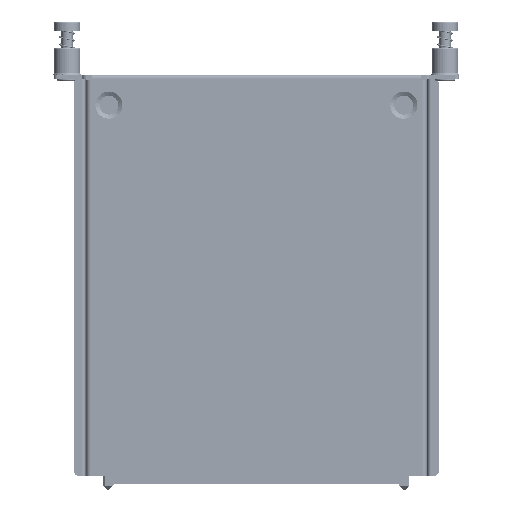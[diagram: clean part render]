
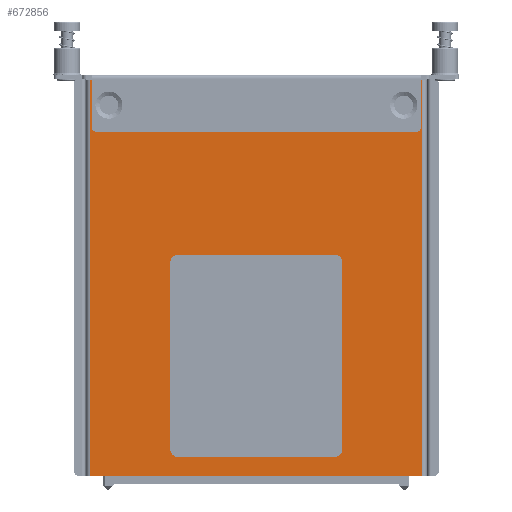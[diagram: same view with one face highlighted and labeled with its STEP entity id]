
A CAD part, front view. The second image highlights one B-rep face of the part: STEP entity #672856.
In plain terms, the highlighted planar face has unit normal (0, -1, 0).
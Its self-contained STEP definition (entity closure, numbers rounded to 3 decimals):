
#236614=DIRECTION('',(0.,0.,1.));
#236615=VECTOR('',#236614,104.7);
#236616=CARTESIAN_POINT('',(43.9,-19.3,-105.));
#236617=LINE('',#236616,#236615);
#236627=DIRECTION('',(1.,0.,0.));
#236628=VECTOR('',#236627,87.8);
#236629=CARTESIAN_POINT('',(-43.9,-19.3,-105.));
#236630=LINE('',#236629,#236628);
#236635=CARTESIAN_POINT('',(-42.5,-19.3,-1.3));
#236636=DIRECTION('',(0.,1.,0.));
#236637=DIRECTION('',(0.,0.,1.));
#236638=AXIS2_PLACEMENT_3D('',#236635,#236636,#236637);
#236640=DIRECTION('',(0.,0.,-1.));
#236641=VECTOR('',#236640,0.7);
#236642=CARTESIAN_POINT('',(-41.5,-19.3,-1.3));
#236643=LINE('',#236642,#236641);
#236644=DIRECTION('',(1.,0.,0.));
#236645=VECTOR('',#236644,8.);
#236646=CARTESIAN_POINT('',(-41.5,-19.3,-2.));
#236647=LINE('',#236646,#236645);
#236648=CARTESIAN_POINT('',(-33.5,-19.3,-3.));
#236649=DIRECTION('',(0.,1.,0.));
#236650=DIRECTION('',(0.,0.,1.));
#236651=AXIS2_PLACEMENT_3D('',#236648,#236649,#236650);
#236653=DIRECTION('',(1.,0.,0.));
#236654=VECTOR('',#236653,65.);
#236655=CARTESIAN_POINT('',(-32.5,-19.3,-12.));
#236656=LINE('',#236655,#236654);
#236657=DIRECTION('',(0.,0.,1.));
#236658=VECTOR('',#236657,9.);
#236659=CARTESIAN_POINT('',(32.5,-19.3,-12.));
#236660=LINE('',#236659,#236658);
#236661=CARTESIAN_POINT('',(33.5,-19.3,-3.));
#236662=DIRECTION('',(0.,1.,0.));
#236663=DIRECTION('',(-1.,0.,0.));
#236664=AXIS2_PLACEMENT_3D('',#236661,#236662,#236663);
#236666=DIRECTION('',(1.,0.,0.));
#236667=VECTOR('',#236666,8.);
#236668=CARTESIAN_POINT('',(33.5,-19.3,-2.));
#236669=LINE('',#236668,#236667);
#236670=DIRECTION('',(0.,0.,1.));
#236671=VECTOR('',#236670,0.7);
#236672=CARTESIAN_POINT('',(41.5,-19.3,-2.));
#236673=LINE('',#236672,#236671);
#236674=CARTESIAN_POINT('',(42.5,-19.3,-1.3));
#236675=DIRECTION('',(0.,1.,0.));
#236676=DIRECTION('',(-1.,0.,0.));
#236677=AXIS2_PLACEMENT_3D('',#236674,#236675,#236676);
#236679=DIRECTION('',(1.,0.,0.));
#236680=VECTOR('',#236679,1.4);
#236681=CARTESIAN_POINT('',(42.5,-19.3,-0.3));
#236682=LINE('',#236681,#236680);
#236683=DIRECTION('',(1.,0.,0.));
#236684=VECTOR('',#236683,1.4);
#236685=CARTESIAN_POINT('',(-43.9,-19.3,-0.3));
#236686=LINE('',#236685,#236684);
#236687=CARTESIAN_POINT('',(-39.,-19.3,-7.));
#236688=DIRECTION('',(0.,-1.,0.));
#236689=DIRECTION('',(1.,0.,0.));
#236690=AXIS2_PLACEMENT_3D('',#236687,#236688,#236689);
#236692=CARTESIAN_POINT('',(-39.,-19.3,-7.));
#236693=DIRECTION('',(0.,-1.,0.));
#236694=DIRECTION('',(-1.,0.,0.));
#236695=AXIS2_PLACEMENT_3D('',#236692,#236693,#236694);
#236697=CARTESIAN_POINT('',(39.,-19.3,-7.));
#236698=DIRECTION('',(0.,-1.,0.));
#236699=DIRECTION('',(1.,0.,0.));
#236700=AXIS2_PLACEMENT_3D('',#236697,#236698,#236699);
#236702=CARTESIAN_POINT('',(39.,-19.3,-7.));
#236703=DIRECTION('',(0.,-1.,0.));
#236704=DIRECTION('',(-1.,0.,0.));
#236705=AXIS2_PLACEMENT_3D('',#236702,#236703,#236704);
#236707=CARTESIAN_POINT('',(20.75,-19.3,-48.55));
#236708=DIRECTION('',(0.,-1.,0.));
#236709=DIRECTION('',(1.,0.,0.));
#236710=AXIS2_PLACEMENT_3D('',#236707,#236708,#236709);
#236712=DIRECTION('',(1.,0.,0.));
#236713=VECTOR('',#236712,41.5);
#236714=CARTESIAN_POINT('',(-20.75,-19.3,-46.55));
#236715=LINE('',#236714,#236713);
#236716=CARTESIAN_POINT('',(-20.75,-19.3,-48.55));
#236717=DIRECTION('',(0.,-1.,0.));
#236718=DIRECTION('',(0.,0.,1.));
#236719=AXIS2_PLACEMENT_3D('',#236716,#236717,#236718);
#236721=DIRECTION('',(0.,0.,1.));
#236722=VECTOR('',#236721,49.5);
#236723=CARTESIAN_POINT('',(-22.75,-19.3,-98.05));
#236724=LINE('',#236723,#236722);
#236725=CARTESIAN_POINT('',(-20.75,-19.3,-98.05));
#236726=DIRECTION('',(0.,-1.,0.));
#236727=DIRECTION('',(-1.,0.,0.));
#236728=AXIS2_PLACEMENT_3D('',#236725,#236726,#236727);
#236730=DIRECTION('',(-1.,0.,0.));
#236731=VECTOR('',#236730,41.5);
#236732=CARTESIAN_POINT('',(20.75,-19.3,-100.05));
#236733=LINE('',#236732,#236731);
#236734=CARTESIAN_POINT('',(20.75,-19.3,-98.05));
#236735=DIRECTION('',(0.,-1.,0.));
#236736=DIRECTION('',(0.,0.,-1.));
#236737=AXIS2_PLACEMENT_3D('',#236734,#236735,#236736);
#236739=DIRECTION('',(0.,0.,-1.));
#236740=VECTOR('',#236739,49.5);
#236741=CARTESIAN_POINT('',(22.75,-19.3,-48.55));
#236742=LINE('',#236741,#236740);
#236768=DIRECTION('',(0.,0.,-1.));
#236769=VECTOR('',#236768,104.7);
#236770=CARTESIAN_POINT('',(-43.9,-19.3,-0.3));
#236771=LINE('',#236770,#236769);
#240601=DIRECTION('',(0.,0.,1.));
#240602=VECTOR('',#240601,9.);
#240603=CARTESIAN_POINT('',(-32.5,-19.3,-12.));
#240604=LINE('',#240603,#240602);
#318911=CARTESIAN_POINT('',(-42.5,-19.3,-0.3));
#318912=CARTESIAN_POINT('',(-41.5,-19.3,-1.3));
#318913=VERTEX_POINT('',#318911);
#318914=VERTEX_POINT('',#318912);
#318915=CARTESIAN_POINT('',(-41.5,-19.3,-2.));
#318916=VERTEX_POINT('',#318915);
#318917=CARTESIAN_POINT('',(-33.5,-19.3,-2.));
#318918=VERTEX_POINT('',#318917);
#318919=CARTESIAN_POINT('',(-32.5,-19.3,-3.));
#318920=VERTEX_POINT('',#318919);
#318921=CARTESIAN_POINT('',(-32.5,-19.3,-12.));
#318922=VERTEX_POINT('',#318921);
#318923=CARTESIAN_POINT('',(32.5,-19.3,-12.));
#318924=VERTEX_POINT('',#318923);
#318925=CARTESIAN_POINT('',(32.5,-19.3,-3.));
#318926=VERTEX_POINT('',#318925);
#318927=CARTESIAN_POINT('',(33.5,-19.3,-2.));
#318928=VERTEX_POINT('',#318927);
#318929=CARTESIAN_POINT('',(41.5,-19.3,-2.));
#318930=VERTEX_POINT('',#318929);
#318931=CARTESIAN_POINT('',(41.5,-19.3,-1.3));
#318932=VERTEX_POINT('',#318931);
#318933=CARTESIAN_POINT('',(42.5,-19.3,-0.3));
#318934=VERTEX_POINT('',#318933);
#318935=CARTESIAN_POINT('',(43.9,-19.3,-0.3));
#318936=VERTEX_POINT('',#318935);
#318937=CARTESIAN_POINT('',(43.9,-19.3,-105.));
#318938=VERTEX_POINT('',#318937);
#318939=CARTESIAN_POINT('',(-43.9,-19.3,-105.));
#318940=VERTEX_POINT('',#318939);
#318941=CARTESIAN_POINT('',(-43.9,-19.3,-0.3));
#318942=VERTEX_POINT('',#318941);
#319043=CARTESIAN_POINT('',(40.55,-19.3,-7.));
#319044=CARTESIAN_POINT('',(37.45,-19.3,-7.));
#319045=VERTEX_POINT('',#319043);
#319046=VERTEX_POINT('',#319044);
#319079=CARTESIAN_POINT('',(-37.45,-19.3,-7.));
#319080=CARTESIAN_POINT('',(-40.55,-19.3,-7.));
#319081=VERTEX_POINT('',#319079);
#319082=VERTEX_POINT('',#319080);
#320393=CARTESIAN_POINT('',(22.75,-19.3,-48.55));
#320394=CARTESIAN_POINT('',(20.75,-19.3,-46.55));
#320395=VERTEX_POINT('',#320393);
#320396=VERTEX_POINT('',#320394);
#320397=CARTESIAN_POINT('',(-20.75,-19.3,-46.55));
#320398=VERTEX_POINT('',#320397);
#320399=CARTESIAN_POINT('',(-22.75,-19.3,-48.55));
#320400=VERTEX_POINT('',#320399);
#320401=CARTESIAN_POINT('',(-22.75,-19.3,-98.05));
#320402=VERTEX_POINT('',#320401);
#320403=CARTESIAN_POINT('',(-20.75,-19.3,-100.05));
#320404=VERTEX_POINT('',#320403);
#320405=CARTESIAN_POINT('',(20.75,-19.3,-100.05));
#320406=VERTEX_POINT('',#320405);
#320407=CARTESIAN_POINT('',(22.75,-19.3,-98.05));
#320408=VERTEX_POINT('',#320407);
#672789=CARTESIAN_POINT('',(0.,-19.3,0.));
#672790=DIRECTION('',(0.,1.,0.));
#672791=DIRECTION('',(1.,0.,0.));
#672792=AXIS2_PLACEMENT_3D('',#672789,#672790,#672791);
#672793=PLANE('',#672792);
#672795=ORIENTED_EDGE('',*,*,#672794,.T.);
#672797=ORIENTED_EDGE('',*,*,#672796,.T.);
#672799=ORIENTED_EDGE('',*,*,#672798,.T.);
#672801=ORIENTED_EDGE('',*,*,#672800,.T.);
#672803=ORIENTED_EDGE('',*,*,#672802,.F.);
#672805=ORIENTED_EDGE('',*,*,#672804,.T.);
#672807=ORIENTED_EDGE('',*,*,#672806,.T.);
#672809=ORIENTED_EDGE('',*,*,#672808,.T.);
#672811=ORIENTED_EDGE('',*,*,#672810,.T.);
#672813=ORIENTED_EDGE('',*,*,#672812,.T.);
#672815=ORIENTED_EDGE('',*,*,#672814,.T.);
#672817=ORIENTED_EDGE('',*,*,#672816,.T.);
#672818=ORIENTED_EDGE('',*,*,#672734,.F.);
#672819=ORIENTED_EDGE('',*,*,#672772,.F.);
#672821=ORIENTED_EDGE('',*,*,#672820,.F.);
#672823=ORIENTED_EDGE('',*,*,#672822,.T.);
#672824=EDGE_LOOP('',(#672795,#672797,#672799,#672801,#672803,#672805,#672807,
#672809,#672811,#672813,#672815,#672817,#672818,#672819,#672821,#672823));
#672825=FACE_OUTER_BOUND('',#672824,.F.);
#672827=ORIENTED_EDGE('',*,*,#672826,.T.);
#672829=ORIENTED_EDGE('',*,*,#672828,.T.);
#672830=EDGE_LOOP('',(#672827,#672829));
#672831=FACE_BOUND('',#672830,.F.);
#672833=ORIENTED_EDGE('',*,*,#672832,.T.);
#672835=ORIENTED_EDGE('',*,*,#672834,.T.);
#672836=EDGE_LOOP('',(#672833,#672835));
#672837=FACE_BOUND('',#672836,.F.);
#672839=ORIENTED_EDGE('',*,*,#672838,.T.);
#672841=ORIENTED_EDGE('',*,*,#672840,.F.);
#672843=ORIENTED_EDGE('',*,*,#672842,.T.);
#672845=ORIENTED_EDGE('',*,*,#672844,.F.);
#672847=ORIENTED_EDGE('',*,*,#672846,.T.);
#672849=ORIENTED_EDGE('',*,*,#672848,.F.);
#672851=ORIENTED_EDGE('',*,*,#672850,.T.);
#672853=ORIENTED_EDGE('',*,*,#672852,.F.);
#672854=EDGE_LOOP('',(#672839,#672841,#672843,#672845,#672847,#672849,#672851,
#672853));
#672855=FACE_BOUND('',#672854,.F.);
#236639=CIRCLE('',#236638,1.);
#236652=CIRCLE('',#236651,1.);
#236665=CIRCLE('',#236664,1.);
#236678=CIRCLE('',#236677,1.);
#236691=CIRCLE('',#236690,1.55);
#236696=CIRCLE('',#236695,1.55);
#236701=CIRCLE('',#236700,1.55);
#236706=CIRCLE('',#236705,1.55);
#236711=CIRCLE('',#236710,2.);
#236720=CIRCLE('',#236719,2.);
#236729=CIRCLE('',#236728,2.);
#236738=CIRCLE('',#236737,2.);
#672734=EDGE_CURVE('',#318938,#318936,#236617,.T.);
#672772=EDGE_CURVE('',#318940,#318938,#236630,.T.);
#672794=EDGE_CURVE('',#318913,#318914,#236639,.T.);
#672796=EDGE_CURVE('',#318914,#318916,#236643,.T.);
#672798=EDGE_CURVE('',#318916,#318918,#236647,.T.);
#672800=EDGE_CURVE('',#318918,#318920,#236652,.T.);
#672802=EDGE_CURVE('',#318922,#318920,#240604,.T.);
#672804=EDGE_CURVE('',#318922,#318924,#236656,.T.);
#672806=EDGE_CURVE('',#318924,#318926,#236660,.T.);
#672808=EDGE_CURVE('',#318926,#318928,#236665,.T.);
#672810=EDGE_CURVE('',#318928,#318930,#236669,.T.);
#672812=EDGE_CURVE('',#318930,#318932,#236673,.T.);
#672814=EDGE_CURVE('',#318932,#318934,#236678,.T.);
#672816=EDGE_CURVE('',#318934,#318936,#236682,.T.);
#672820=EDGE_CURVE('',#318942,#318940,#236771,.T.);
#672822=EDGE_CURVE('',#318942,#318913,#236686,.T.);
#672826=EDGE_CURVE('',#319081,#319082,#236691,.T.);
#672828=EDGE_CURVE('',#319082,#319081,#236696,.T.);
#672832=EDGE_CURVE('',#319045,#319046,#236701,.T.);
#672834=EDGE_CURVE('',#319046,#319045,#236706,.T.);
#672838=EDGE_CURVE('',#320395,#320396,#236711,.T.);
#672840=EDGE_CURVE('',#320398,#320396,#236715,.T.);
#672842=EDGE_CURVE('',#320398,#320400,#236720,.T.);
#672844=EDGE_CURVE('',#320402,#320400,#236724,.T.);
#672846=EDGE_CURVE('',#320402,#320404,#236729,.T.);
#672848=EDGE_CURVE('',#320406,#320404,#236733,.T.);
#672850=EDGE_CURVE('',#320406,#320408,#236738,.T.);
#672852=EDGE_CURVE('',#320395,#320408,#236742,.T.);
#672856=ADVANCED_FACE('',(#672825,#672831,#672837,#672855),#672793,.F.);
